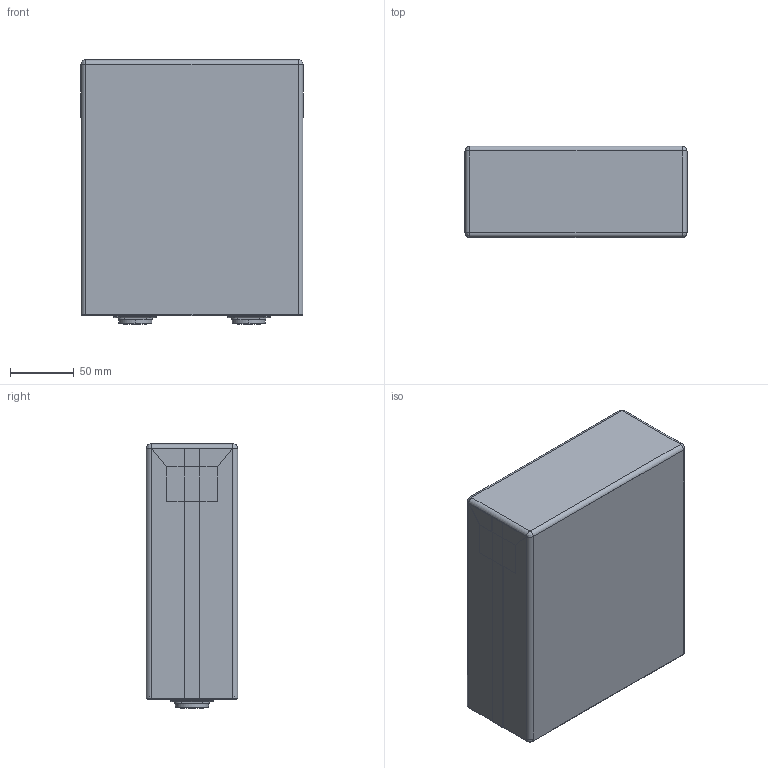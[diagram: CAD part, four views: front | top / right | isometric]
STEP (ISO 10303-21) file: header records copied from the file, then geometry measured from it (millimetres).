
FILE_DESCRIPTION((''),'2;1');
FILE_NAME('240AH_ASM','2019-11-22T',('Eco Power'),(''),'PRO/ENGINEER BY PARAMETRIC TECHNOLOGY CORPORATION, 2013050','PRO/ENGINEER BY PARAMETRIC TECHNOLOGY CORPORATION, 2013050','');
FILE_SCHEMA(('CONFIG_CONTROL_DESIGN'));
Length unit declared in the file: millimetre
Products named in the file (4): 240AH-CELL-M4-20170212_1_1; ASM0053_ASM_1_ASM_1_ASM; 240AH_ASM_1_ASM; 240AH_ASM
Assembly tree (3 placements, depth 4):
  240AH_ASM
    240AH_ASM_1_ASM
      ASM0053_ASM_1_ASM_1_ASM
        240AH-CELL-M4-20170212_1_1
Bounding box: 174.6 x 71.6 x 207.1 mm (x, y, z)
Volume: 131948.7 mm3; surface area: 261250.8 mm2
Topology: 1 solids, 2 shells, 526 faces, 1268 edges, 766 vertices
Faces by surface type: plane 218, cylinder 184, torus 80, cone 24, bspline 20
Entity records: 17903 total; most frequent: CARTESIAN_POINT 5452, DIRECTION 2668, ORIENTED_EDGE 2528, EDGE_CURVE 1264, AXIS2_PLACEMENT_3D 973, VERTEX_POINT 766, VECTOR 722, LINE 722
